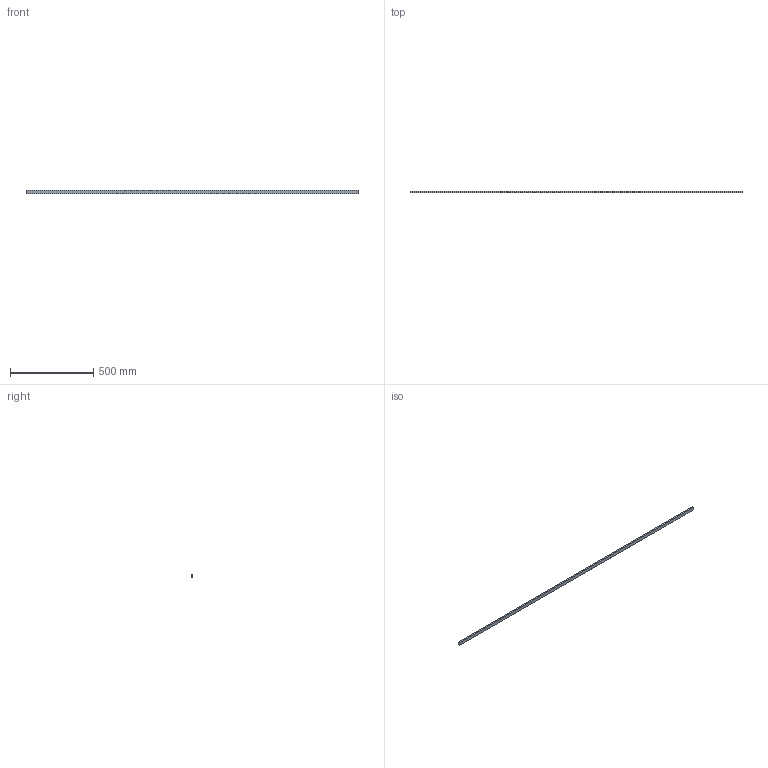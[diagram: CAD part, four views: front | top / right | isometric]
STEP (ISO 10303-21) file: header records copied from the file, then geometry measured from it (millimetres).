
FILE_DESCRIPTION (( 'STEP AP214' ), '1' );
FILE_NAME ('EBP-A10-20.STEP', '2016-01-28T06:54:55', ( '' ), ( '' ), 'SwSTEP 2.0', 'SolidWorks 2012', '' );
FILE_SCHEMA (( 'AUTOMOTIVE_DESIGN' ));
Length unit declared in the file: millimetre
Products named in the file (1): EBP-A10-20
Bounding box: 2000 x 10.2 x 20 mm (x, y, z)
Volume: 408000 mm3; surface area: 201208 mm2
Topology: 2 solids, 2 shells, 12 faces, 24 edges, 16 vertices
Faces by surface type: plane 12
Entity records: 351 total; most frequent: CARTESIAN_POINT 53, DIRECTION 50, ORIENTED_EDGE 48, VECTOR 24, LINE 24, EDGE_CURVE 24, VERTEX_POINT 16, AXIS2_PLACEMENT_3D 13
